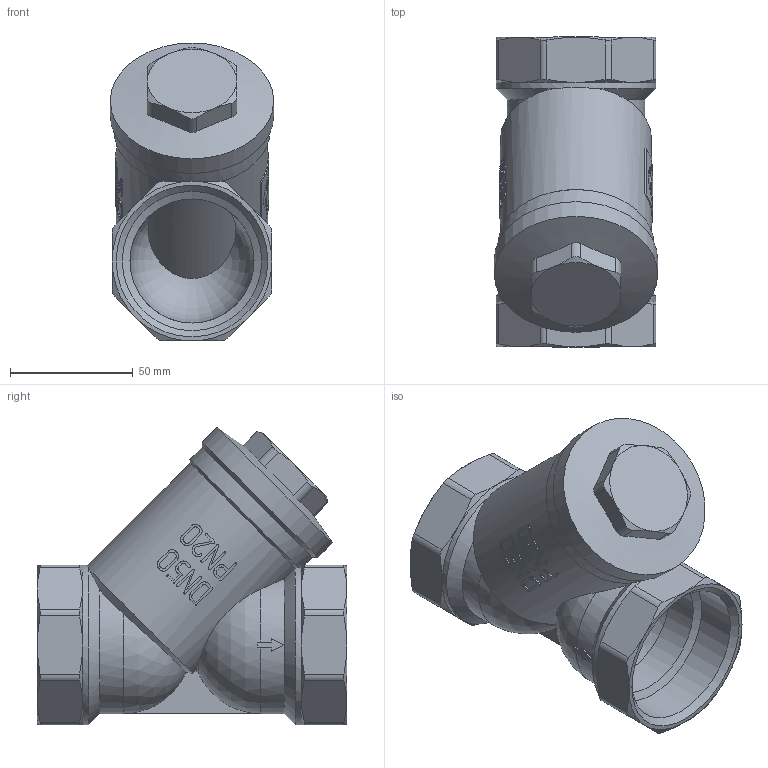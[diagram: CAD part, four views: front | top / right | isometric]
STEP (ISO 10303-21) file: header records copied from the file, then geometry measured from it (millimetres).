
FILE_DESCRIPTION(('STEP AP242'), '1');
FILE_NAME('VT.192.N.09', '', ('UNSPECIFIED'), ('UNSPECIFIED'), 'C3D Converter', 'C3D Toolkit', '');
FILE_SCHEMA(('AP242_MANAGED_MODEL_BASED_3D_ENGINEERING_MIM_LF { 1 0 10303 442 1 1 4 }'));
Length unit declared in the file: millimetre
Products named in the file (1): ВР.061146.022.000 СБ
Bounding box: 66.5 x 126 x 121.14 mm (x, y, z)
Volume: 318810.6 mm3; surface area: 60020.7 mm2
Topology: 1 solids, 1 shells, 348 faces, 955 edges, 626 vertices
Faces by surface type: plane 124, extrusion 124, cylinder 52, cone 38, torus 6, sphere 4
Full cylindrical faces by diameter (mm): 45 x1, 50.5 x2, 56.657 x2, 63.5 x1, 65 x1, 66.5 x1
Entity records: 21231 total; most frequent: CARTESIAN_POINT 13204, ORIENTED_EDGE 1882, DIRECTION 1215, EDGE_CURVE 941, VERTEX_POINT 626, B_SPLINE_CURVE_WITH_KNOTS 528, VECTOR 471, EDGE_LOOP 379
